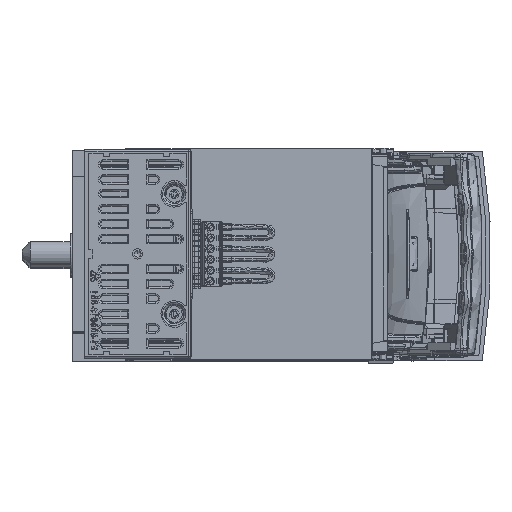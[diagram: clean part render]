
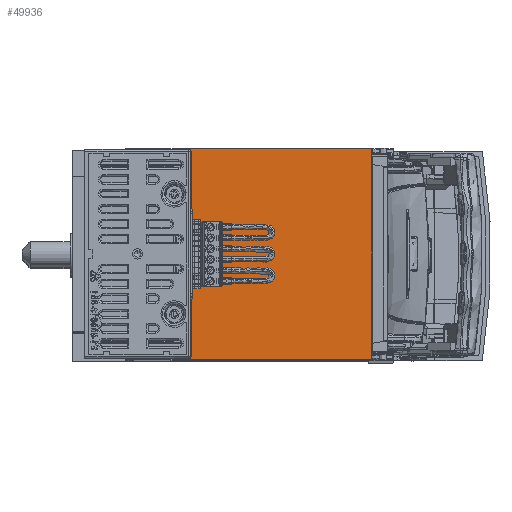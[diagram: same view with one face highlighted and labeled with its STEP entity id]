
A CAD part, top view. The second image highlights one B-rep face of the part: STEP entity #49936.
In plain terms, the highlighted planar face has unit normal (0, 0, 1).
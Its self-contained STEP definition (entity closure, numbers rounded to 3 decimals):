
#6707=FACE_OUTER_BOUND('',#67850,.T.);
#17945=LINE('',#241496,#31174);
#17946=LINE('',#241516,#31175);
#17947=LINE('',#241535,#31176);
#17948=LINE('',#241537,#31177);
#17949=LINE('',#241539,#31178);
#17950=LINE('',#241541,#31179);
#17951=LINE('',#241543,#31180);
#17952=LINE('',#241545,#31181);
#31174=VECTOR('',#191882,1.);
#31175=VECTOR('',#191883,1.);
#31176=VECTOR('',#191884,1.);
#31177=VECTOR('',#191885,1.);
#31178=VECTOR('',#191886,1.);
#31179=VECTOR('',#191887,1.);
#31180=VECTOR('',#191888,1.);
#31181=VECTOR('',#191889,1.);
#43568=PLANE('',#174255);
#49936=ADVANCED_FACE('',(#6707),#43568,.F.);
#58302=B_SPLINE_CURVE_WITH_KNOTS('',3,(#241499,#241500,#241501,#241502,
#241503,#241504,#241505,#241506,#241507,#241508,#241509,#241510,#241511,
#241512,#241513,#241514),.UNSPECIFIED.,.F.,.F.,(4,3,3,3,3,4),(0.,0.2,
0.4,0.609,0.832,1.),.UNSPECIFIED.);
#58303=B_SPLINE_CURVE_WITH_KNOTS('',3,(#241518,#241519,#241520,#241521,
#241522,#241523,#241524,#241525,#241526,#241527,#241528,#241529,#241530,
#241531,#241532,#241533),.UNSPECIFIED.,.F.,.F.,(4,3,3,3,3,4),(0.,0.221,
0.453,0.678,0.898,1.),.UNSPECIFIED.);
#67850=EDGE_LOOP('',(#84681,#84682,#84683,#84684,#84685,#84686,#84687,#84688,
#84689,#84690));
#84681=ORIENTED_EDGE('',*,*,#147345,.F.);
#84682=ORIENTED_EDGE('',*,*,#147346,.T.);
#84683=ORIENTED_EDGE('',*,*,#147347,.F.);
#84684=ORIENTED_EDGE('',*,*,#147348,.T.);
#84685=ORIENTED_EDGE('',*,*,#147349,.F.);
#84686=ORIENTED_EDGE('',*,*,#147350,.T.);
#84687=ORIENTED_EDGE('',*,*,#147351,.F.);
#84688=ORIENTED_EDGE('',*,*,#147352,.F.);
#84689=ORIENTED_EDGE('',*,*,#147353,.F.);
#84690=ORIENTED_EDGE('',*,*,#147354,.T.);
#129730=VERTEX_POINT('',#241497);
#129731=VERTEX_POINT('',#241498);
#129732=VERTEX_POINT('',#241515);
#129733=VERTEX_POINT('',#241517);
#129734=VERTEX_POINT('',#241534);
#129735=VERTEX_POINT('',#241536);
#129736=VERTEX_POINT('',#241538);
#129737=VERTEX_POINT('',#241540);
#129738=VERTEX_POINT('',#241542);
#129739=VERTEX_POINT('',#241544);
#147345=EDGE_CURVE('',#129730,#129731,#17945,.T.);
#147346=EDGE_CURVE('',#129730,#129732,#58302,.T.);
#147347=EDGE_CURVE('',#129733,#129732,#17946,.T.);
#147348=EDGE_CURVE('',#129733,#129734,#58303,.T.);
#147349=EDGE_CURVE('',#129735,#129734,#17947,.T.);
#147350=EDGE_CURVE('',#129735,#129736,#17948,.T.);
#147351=EDGE_CURVE('',#129737,#129736,#17949,.T.);
#147352=EDGE_CURVE('',#129738,#129737,#17950,.T.);
#147353=EDGE_CURVE('',#129739,#129738,#17951,.T.);
#147354=EDGE_CURVE('',#129739,#129731,#17952,.T.);
#174255=AXIS2_PLACEMENT_3D('',#241546,#191890,#191891);
#191882=DIRECTION('',(-1.,0.,0.));
#191883=DIRECTION('',(0.,1.,0.));
#191884=DIRECTION('',(1.,0.,0.));
#191885=DIRECTION('',(0.,-1.,0.));
#191886=DIRECTION('',(-1.,0.,0.));
#191887=DIRECTION('',(0.,-1.,0.));
#191888=DIRECTION('',(1.,0.,0.));
#191889=DIRECTION('',(0.,-1.,0.));
#191890=DIRECTION('',(0.,0.,-1.));
#191891=DIRECTION('',(0.,-1.,0.));
#241496=CARTESIAN_POINT('',(53.249,43.289,292.));
#241497=CARTESIAN_POINT('',(54.263,43.291,292.));
#241498=CARTESIAN_POINT('',(47.2,43.289,292.));
#241499=CARTESIAN_POINT('',(54.264,43.291,292.));
#241500=CARTESIAN_POINT('',(54.37,43.291,292.));
#241501=CARTESIAN_POINT('',(54.477,43.272,292.));
#241502=CARTESIAN_POINT('',(54.577,43.236,292.));
#241503=CARTESIAN_POINT('',(54.676,43.201,292.));
#241504=CARTESIAN_POINT('',(54.771,43.148,292.));
#241505=CARTESIAN_POINT('',(54.854,43.083,292.));
#241506=CARTESIAN_POINT('',(54.942,43.014,292.));
#241507=CARTESIAN_POINT('',(55.019,42.93,292.));
#241508=CARTESIAN_POINT('',(55.081,42.838,292.));
#241509=CARTESIAN_POINT('',(55.147,42.74,292.));
#241510=CARTESIAN_POINT('',(55.196,42.629,292.));
#241511=CARTESIAN_POINT('',(55.226,42.515,292.));
#241512=CARTESIAN_POINT('',(55.249,42.429,292.));
#241513=CARTESIAN_POINT('',(55.26,42.338,292.));
#241514=CARTESIAN_POINT('',(55.26,42.249,292.));
#241515=CARTESIAN_POINT('',(55.26,42.249,292.));
#241516=CARTESIAN_POINT('',(55.26,49.5,292.));
#241517=CARTESIAN_POINT('',(55.26,-42.313,292.));
#241518=CARTESIAN_POINT('',(55.26,-42.313,292.));
#241519=CARTESIAN_POINT('',(55.26,-42.43,292.));
#241520=CARTESIAN_POINT('',(55.24,-42.549,292.));
#241521=CARTESIAN_POINT('',(55.202,-42.66,292.));
#241522=CARTESIAN_POINT('',(55.161,-42.776,292.));
#241523=CARTESIAN_POINT('',(55.1,-42.886,292.));
#241524=CARTESIAN_POINT('',(55.023,-42.981,292.));
#241525=CARTESIAN_POINT('',(54.948,-43.074,292.));
#241526=CARTESIAN_POINT('',(54.855,-43.155,292.));
#241527=CARTESIAN_POINT('',(54.753,-43.217,292.));
#241528=CARTESIAN_POINT('',(54.653,-43.277,292.));
#241529=CARTESIAN_POINT('',(54.541,-43.32,292.));
#241530=CARTESIAN_POINT('',(54.427,-43.341,292.));
#241531=CARTESIAN_POINT('',(54.373,-43.351,292.));
#241532=CARTESIAN_POINT('',(54.318,-43.355,292.));
#241533=CARTESIAN_POINT('',(54.264,-43.355,292.));
#241534=CARTESIAN_POINT('',(54.263,-43.355,292.));
#241535=CARTESIAN_POINT('',(59.135,-43.353,292.));
#241536=CARTESIAN_POINT('',(47.2,-43.353,292.));
#241537=CARTESIAN_POINT('',(47.2,49.3,292.));
#241538=CARTESIAN_POINT('',(47.2,-49.5,292.));
#241539=CARTESIAN_POINT('',(152.,-49.5,292.));
#241540=CARTESIAN_POINT('',(140.5,-49.5,292.));
#241541=CARTESIAN_POINT('',(140.5,49.5,292.));
#241542=CARTESIAN_POINT('',(140.5,49.5,292.));
#241543=CARTESIAN_POINT('',(152.,49.5,292.));
#241544=CARTESIAN_POINT('',(47.2,49.5,292.));
#241545=CARTESIAN_POINT('',(47.2,49.3,292.));
#241546=CARTESIAN_POINT('',(152.,49.5,292.));
